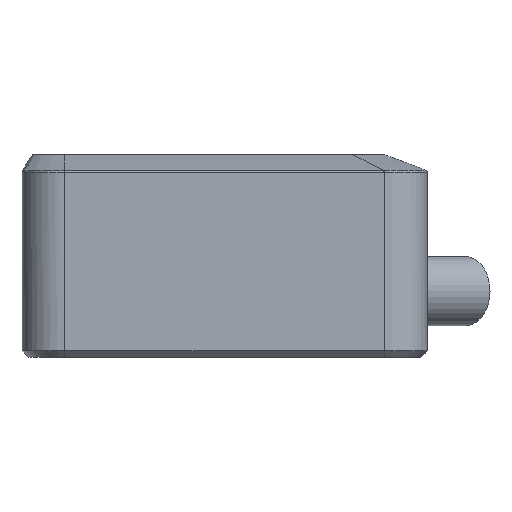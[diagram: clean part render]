
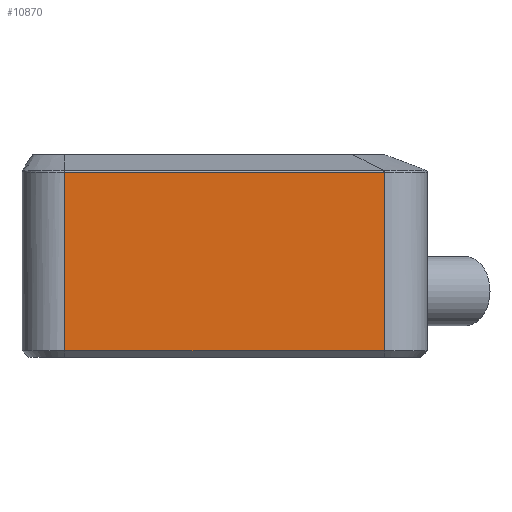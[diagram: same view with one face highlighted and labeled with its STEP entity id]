
A CAD part, front view. The second image highlights one B-rep face of the part: STEP entity #10870.
In plain terms, the highlighted planar face has unit normal (0, -1, 0).
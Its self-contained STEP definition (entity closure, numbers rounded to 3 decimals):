
#957=DIRECTION('',(1.,0.,0.));
#958=VECTOR('',#957,30.);
#959=CARTESIAN_POINT('',(-15.,-19.,0.6));
#960=LINE('',#959,#958);
#1201=DIRECTION('',(1.,0.,0.));
#1202=VECTOR('',#1201,29.92);
#1203=CARTESIAN_POINT('',(-15.,-19.,17.347));
#1204=LINE('',#1203,#1202);
#1205=DIRECTION('',(0.,0.,-1.));
#1206=VECTOR('',#1205,16.747);
#1207=CARTESIAN_POINT('',(15.,-19.,17.347));
#1208=LINE('',#1207,#1206);
#1236=DIRECTION('',(0.,0.,-1.));
#1237=VECTOR('',#1236,16.747);
#1238=CARTESIAN_POINT('',(-15.,-19.,17.347));
#1239=LINE('',#1238,#1237);
#1395=CARTESIAN_POINT('',(14.919,-19.,2.809));
#1396=DIRECTION('',(0.,-1.,0.));
#1397=DIRECTION('',(0.006,0.,1.));
#1398=AXIS2_PLACEMENT_3D('',#1395,#1396,#1397);
#8448=CARTESIAN_POINT('',(-15.,-19.,0.6));
#8449=VERTEX_POINT('',#8448);
#8450=CARTESIAN_POINT('',(15.,-19.,0.6));
#8451=VERTEX_POINT('',#8450);
#8507=CARTESIAN_POINT('',(15.,-19.,17.347));
#8508=VERTEX_POINT('',#8507);
#8509=CARTESIAN_POINT('',(-15.,-19.,17.347));
#8510=VERTEX_POINT('',#8509);
#8511=CARTESIAN_POINT('',(14.92,-19.,17.347));
#8512=VERTEX_POINT('',#8511);
#10855=CARTESIAN_POINT('',(-19.,-19.,0.));
#10856=DIRECTION('',(0.,-1.,0.));
#10857=DIRECTION('',(1.,0.,0.));
#10858=AXIS2_PLACEMENT_3D('',#10855,#10856,#10857);
#10859=PLANE('',#10858);
#10861=ORIENTED_EDGE('',*,*,#10860,.F.);
#10863=ORIENTED_EDGE('',*,*,#10862,.T.);
#10865=ORIENTED_EDGE('',*,*,#10864,.F.);
#10866=ORIENTED_EDGE('',*,*,#10846,.T.);
#10867=ORIENTED_EDGE('',*,*,#10605,.F.);
#10868=EDGE_LOOP('',(#10861,#10863,#10865,#10866,#10867));
#10869=FACE_OUTER_BOUND('',#10868,.F.);
#10870=ADVANCED_FACE('',(#10869),#10859,.T.);
#1399=CIRCLE('',#1398,14.538);
#10605=EDGE_CURVE('',#8449,#8451,#960,.T.);
#10846=EDGE_CURVE('',#8508,#8451,#1208,.T.);
#10860=EDGE_CURVE('',#8510,#8449,#1239,.T.);
#10862=EDGE_CURVE('',#8510,#8512,#1204,.T.);
#10864=EDGE_CURVE('',#8508,#8512,#1399,.T.);
